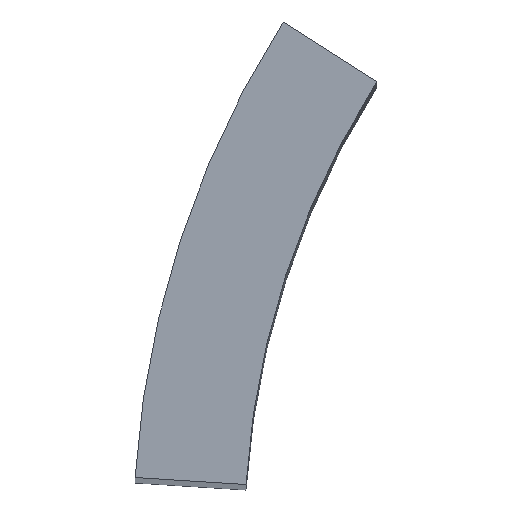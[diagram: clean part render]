
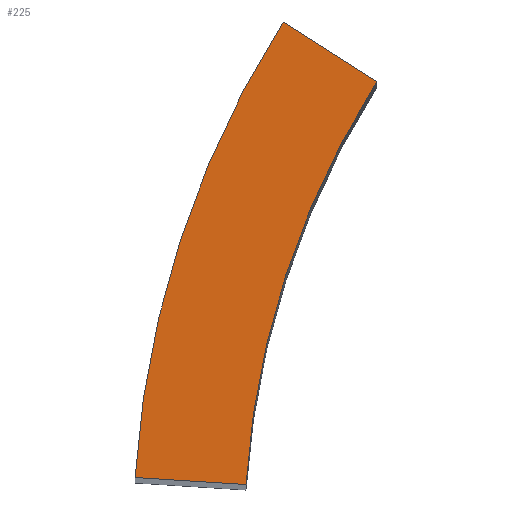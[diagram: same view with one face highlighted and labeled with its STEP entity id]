
A CAD part, top view. The second image highlights one B-rep face of the part: STEP entity #225.
In plain terms, the highlighted planar face has unit normal (0, 0, 1).
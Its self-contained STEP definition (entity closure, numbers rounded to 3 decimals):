
#24 = VERTEX_POINT('',#25);
#25 = CARTESIAN_POINT('',(-19.42,12.324,100.));
#31 = EDGE_CURVE('',#24,#32,#34,.T.);
#32 = VERTEX_POINT('',#33);
#33 = CARTESIAN_POINT('',(-21.953,13.931,100.));
#34 = LINE('',#35,#36);
#35 = CARTESIAN_POINT('',(-19.42,12.324,100.));
#36 = VECTOR('',#37,1.);
#37 = DIRECTION('',(-0.844,0.536,0.));
#62 = EDGE_CURVE('',#32,#63,#65,.T.);
#63 = VERTEX_POINT('',#64);
#64 = CARTESIAN_POINT('',(-24.727,8.034,100.));
#65 = CIRCLE('',#66,26.);
#66 = AXIS2_PLACEMENT_3D('',#67,#68,#69);
#67 = CARTESIAN_POINT('',(0.,0.,100.));
#68 = DIRECTION('',(0.,0.,1.));
#69 = DIRECTION('',(-0.844,0.536,0.));
#95 = EDGE_CURVE('',#63,#96,#98,.T.);
#96 = VERTEX_POINT('',#97);
#97 = CARTESIAN_POINT('',(-25.949,1.633,100.));
#98 = CIRCLE('',#99,26.);
#99 = AXIS2_PLACEMENT_3D('',#100,#101,#102);
#100 = CARTESIAN_POINT('',(0.,0.,100.)
  );
#101 = DIRECTION('',(0.,0.,1.));
#102 = DIRECTION('',(-0.951,0.309,0.));
#128 = EDGE_CURVE('',#96,#129,#131,.T.);
#129 = VERTEX_POINT('',#130);
#130 = CARTESIAN_POINT('',(-22.955,1.444,100.));
#131 = LINE('',#132,#133);
#132 = CARTESIAN_POINT('',(-25.949,1.633,100.));
#133 = VECTOR('',#134,1.);
#134 = DIRECTION('',(0.998,-0.063,0.));
#159 = EDGE_CURVE('',#129,#160,#162,.T.);
#160 = VERTEX_POINT('',#161);
#161 = CARTESIAN_POINT('',(-21.874,7.107,100.));
#162 = CIRCLE('',#163,23.);
#163 = AXIS2_PLACEMENT_3D('',#164,#165,#166);
#164 = CARTESIAN_POINT('',(0.,0.,100.)
  );
#165 = DIRECTION('',(0.,0.,-1.));
#166 = DIRECTION('',(-0.998,0.063,0.));
#192 = EDGE_CURVE('',#160,#24,#193,.T.);
#193 = CIRCLE('',#194,23.);
#194 = AXIS2_PLACEMENT_3D('',#195,#196,#197);
#195 = CARTESIAN_POINT('',(0.,0.,100.)
  );
#196 = DIRECTION('',(0.,0.,-1.));
#197 = DIRECTION('',(-0.951,0.309,0.));
#225 = ADVANCED_FACE('',(#226),#234,.T.);
#226 = FACE_BOUND('',#227,.T.);
#227 = EDGE_LOOP('',(#228,#229,#230,#231,#232,#233));
#228 = ORIENTED_EDGE('',*,*,#31,.T.);
#229 = ORIENTED_EDGE('',*,*,#62,.T.);
#230 = ORIENTED_EDGE('',*,*,#95,.T.);
#231 = ORIENTED_EDGE('',*,*,#128,.T.);
#232 = ORIENTED_EDGE('',*,*,#159,.T.);
#233 = ORIENTED_EDGE('',*,*,#192,.T.);
#234 = PLANE('',#235);
#235 = AXIS2_PLACEMENT_3D('',#236,#237,#238);
#236 = CARTESIAN_POINT('',(-23.019,7.479,100.));
#237 = DIRECTION('',(0.,0.,1.));
#238 = DIRECTION('',(1.,0.,-0.));
